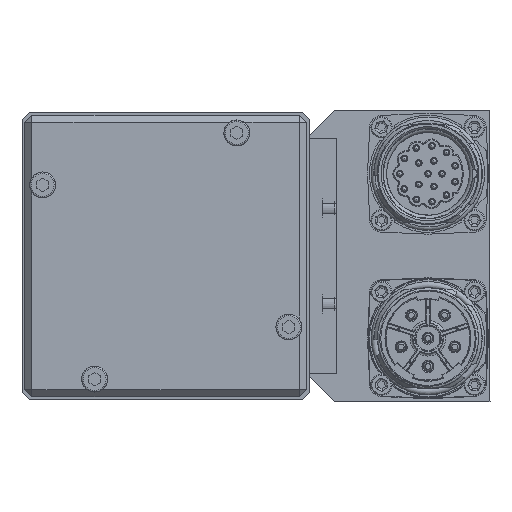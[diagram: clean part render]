
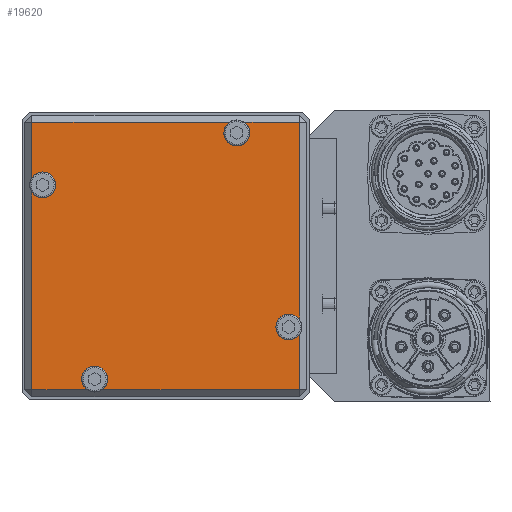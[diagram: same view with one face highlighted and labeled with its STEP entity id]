
A CAD part, left-side view. The second image highlights one B-rep face of the part: STEP entity #19620.
In plain terms, the highlighted planar face has unit normal (-1, 0, 0).
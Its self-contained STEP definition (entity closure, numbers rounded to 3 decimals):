
#926=CIRCLE('',#20943,2.75);
#929=CIRCLE('',#20949,2.75);
#932=CIRCLE('',#20955,2.75);
#934=CIRCLE('',#20959,2.75);
#2177=PLANE('',#20958);
#2690=FACE_OUTER_BOUND('',#3964,.T.);
#3964=EDGE_LOOP('',(#13250,#13251,#13252,#13253,#13254,#13255,#13256,#13257,
#13258,#13259,#13260,#13261));
#5728=LINE('',#29782,#6977);
#5729=LINE('',#29784,#6978);
#5730=LINE('',#29788,#6979);
#5731=LINE('',#29789,#6980);
#5732=LINE('',#29791,#6981);
#5733=LINE('',#29792,#6982);
#5734=LINE('',#29794,#6983);
#5735=LINE('',#29795,#6984);
#6977=VECTOR('',#23930,10.);
#6978=VECTOR('',#23931,10.);
#6979=VECTOR('',#23934,10.);
#6980=VECTOR('',#23935,10.);
#6981=VECTOR('',#23936,10.);
#6982=VECTOR('',#23937,10.);
#6983=VECTOR('',#23938,10.);
#6984=VECTOR('',#23939,10.);
#8135=VERTEX_POINT('',#29751);
#8136=VERTEX_POINT('',#29753);
#8140=VERTEX_POINT('',#29762);
#8141=VERTEX_POINT('',#29764);
#8145=VERTEX_POINT('',#29773);
#8146=VERTEX_POINT('',#29775);
#8148=VERTEX_POINT('',#29781);
#8149=VERTEX_POINT('',#29783);
#8150=VERTEX_POINT('',#29785);
#8151=VERTEX_POINT('',#29787);
#8152=VERTEX_POINT('',#29790);
#8153=VERTEX_POINT('',#29793);
#10061=EDGE_CURVE('',#8136,#8135,#926,.T.);
#10066=EDGE_CURVE('',#8141,#8140,#929,.T.);
#10071=EDGE_CURVE('',#8146,#8145,#932,.T.);
#10074=EDGE_CURVE('',#8148,#8135,#5728,.T.);
#10075=EDGE_CURVE('',#8149,#8148,#5729,.T.);
#10076=EDGE_CURVE('',#8149,#8150,#934,.T.);
#10077=EDGE_CURVE('',#8151,#8150,#5730,.T.);
#10078=EDGE_CURVE('',#8146,#8151,#5731,.T.);
#10079=EDGE_CURVE('',#8152,#8145,#5732,.T.);
#10080=EDGE_CURVE('',#8141,#8152,#5733,.T.);
#10081=EDGE_CURVE('',#8153,#8140,#5734,.T.);
#10082=EDGE_CURVE('',#8136,#8153,#5735,.T.);
#13250=ORIENTED_EDGE('',*,*,#10074,.F.);
#13251=ORIENTED_EDGE('',*,*,#10075,.F.);
#13252=ORIENTED_EDGE('',*,*,#10076,.T.);
#13253=ORIENTED_EDGE('',*,*,#10077,.F.);
#13254=ORIENTED_EDGE('',*,*,#10078,.F.);
#13255=ORIENTED_EDGE('',*,*,#10071,.T.);
#13256=ORIENTED_EDGE('',*,*,#10079,.F.);
#13257=ORIENTED_EDGE('',*,*,#10080,.F.);
#13258=ORIENTED_EDGE('',*,*,#10066,.T.);
#13259=ORIENTED_EDGE('',*,*,#10081,.F.);
#13260=ORIENTED_EDGE('',*,*,#10082,.F.);
#13261=ORIENTED_EDGE('',*,*,#10061,.T.);
#19620=ADVANCED_FACE('',(#2690),#2177,.T.);
#20943=AXIS2_PLACEMENT_3D('',#29754,#23898,#23899);
#20949=AXIS2_PLACEMENT_3D('',#29765,#23910,#23911);
#20955=AXIS2_PLACEMENT_3D('',#29776,#23922,#23923);
#20958=AXIS2_PLACEMENT_3D('',#29780,#23928,#23929);
#20959=AXIS2_PLACEMENT_3D('',#29786,#23932,#23933);
#23898=DIRECTION('center_axis',(1.,0.,0.));
#23899=DIRECTION('ref_axis',(0.,0.,
-1.));
#23910=DIRECTION('center_axis',(1.,0.,0.));
#23911=DIRECTION('ref_axis',(0.,1.,0.));
#23922=DIRECTION('center_axis',(1.,0.,0.));
#23923=DIRECTION('ref_axis',(0.,0.,
1.));
#23928=DIRECTION('center_axis',(-1.,0.,0.));
#23929=DIRECTION('ref_axis',(0.,0.,
-1.));
#23930=DIRECTION('',(0.,0.,-1.));
#23931=DIRECTION('',(0.,-1.,0.));
#23932=DIRECTION('center_axis',(1.,0.,0.));
#23933=DIRECTION('ref_axis',(0.,-1.,0.));
#23934=DIRECTION('',(0.,-1.,0.));
#23935=DIRECTION('',(0.,0.,1.));
#23936=DIRECTION('',(0.,0.,1.));
#23937=DIRECTION('',(0.,1.,0.));
#23938=DIRECTION('',(0.,1.,0.));
#23939=DIRECTION('',(0.,0.,-1.));
#29751=CARTESIAN_POINT('',(-146.5,-28.5,-13.622));
#29753=CARTESIAN_POINT('',(-146.5,-28.5,-16.628));
#29754=CARTESIAN_POINT('Origin',(-146.5,-26.197,-15.125));
#29762=CARTESIAN_POINT('',(-146.5,13.622,-28.5));
#29764=CARTESIAN_POINT('',(-146.5,16.628,-28.5));
#29765=CARTESIAN_POINT('Origin',(-146.5,15.125,-26.197));
#29773=CARTESIAN_POINT('',(-146.5,28.5,13.622));
#29775=CARTESIAN_POINT('',(-146.5,28.5,16.628));
#29776=CARTESIAN_POINT('Origin',(-146.5,26.197,15.125));
#29780=CARTESIAN_POINT('Origin',(-146.5,0.,0.));
#29781=CARTESIAN_POINT('',(-146.5,-28.5,28.5));
#29782=CARTESIAN_POINT('',(-146.5,-28.5,15.));
#29783=CARTESIAN_POINT('',(-146.5,-16.628,28.5));
#29784=CARTESIAN_POINT('',(-146.5,15.,28.5));
#29785=CARTESIAN_POINT('',(-146.5,-13.622,28.5));
#29786=CARTESIAN_POINT('Origin',(-146.5,-15.125,26.197));
#29787=CARTESIAN_POINT('',(-146.5,28.5,28.5));
#29788=CARTESIAN_POINT('',(-146.5,15.,28.5));
#29789=CARTESIAN_POINT('',(-146.5,28.5,-15.));
#29790=CARTESIAN_POINT('',(-146.5,28.5,-28.5));
#29791=CARTESIAN_POINT('',(-146.5,28.5,-15.));
#29792=CARTESIAN_POINT('',(-146.5,-15.,-28.5));
#29793=CARTESIAN_POINT('',(-146.5,-28.5,-28.5));
#29794=CARTESIAN_POINT('',(-146.5,-15.,-28.5));
#29795=CARTESIAN_POINT('',(-146.5,-28.5,15.));
